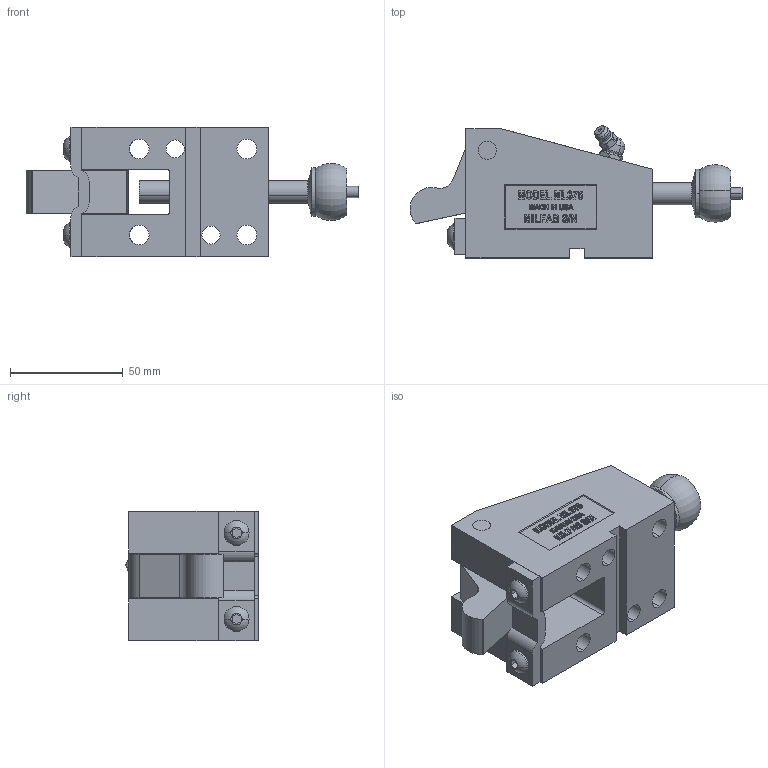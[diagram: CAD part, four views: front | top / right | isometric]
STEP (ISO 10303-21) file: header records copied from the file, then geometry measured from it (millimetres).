
FILE_DESCRIPTION (( 'STEP AP214' ), '1' );
FILE_NAME ('ML37545-C.STEP', '2014-01-07T20:13:25', ( 'user' ), ( '' ), 'SwSTEP 2.0', 'SolidWorks 2009', '' );
FILE_SCHEMA (( 'AUTOMOTIVE_DESIGN' ));
Length unit declared in the file: inch
Products named in the file (1): ML37545-C
Bounding box: 146.96 x 58.48 x 57.15 mm (x, y, z)
Surface area: 49419.1 mm2 (no closed solid volume)
Topology: 0 solids, 11 shells, 495 faces, 1456 edges, 973 vertices
Faces by surface type: plane 301, bspline 81, cylinder 75, torus 18, cone 16, sphere 4
Entity records: 27558 total; most frequent: CARTESIAN_POINT 8625, ORIENTED_EDGE 2665, DIRECTION 2220, EDGE_CURVE 1454, VECTOR 974, LINE 974, VERTEX_POINT 973, AXIS2_PLACEMENT_3D 623
